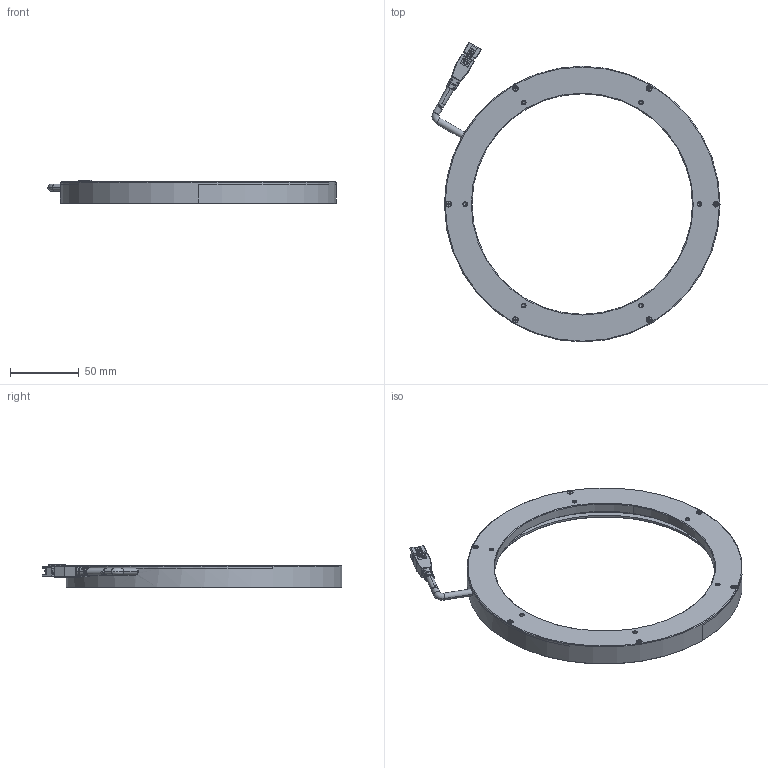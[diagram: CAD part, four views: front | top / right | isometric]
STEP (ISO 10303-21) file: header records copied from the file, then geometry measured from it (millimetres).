
FILE_DESCRIPTION((''),'2;1');
FILE_NAME('MV-LRDS-200-00-X','2023-09-15T16:43:52',('qiaoxuan5'),(''),'CREO PARAMETRIC BY PTC INC, 2020044','CREO PARAMETRIC BY PTC INC, 2020044','');
FILE_SCHEMA(('CONFIG_CONTROL_DESIGN'));
Length unit declared in the file: millimetre
Products named in the file (1): MV-LRDS-200-00-X
Bounding box: 209.07 x 217.53 x 17.2 mm (x, y, z)
Volume: 144120.2 mm3; surface area: 53242.7 mm2
Topology: 2 solids, 14 shells, 576 faces, 1398 edges, 839 vertices
Faces by surface type: plane 297, cylinder 156, cone 83, torus 22, sphere 8, bspline 8, extrusion 2
Entity records: 17147 total; most frequent: CARTESIAN_POINT 3708, DIRECTION 2844, ORIENTED_EDGE 2732, EDGE_CURVE 1366, AXIS2_PLACEMENT_3D 1000, VECTOR 844, LINE 842, VERTEX_POINT 839
